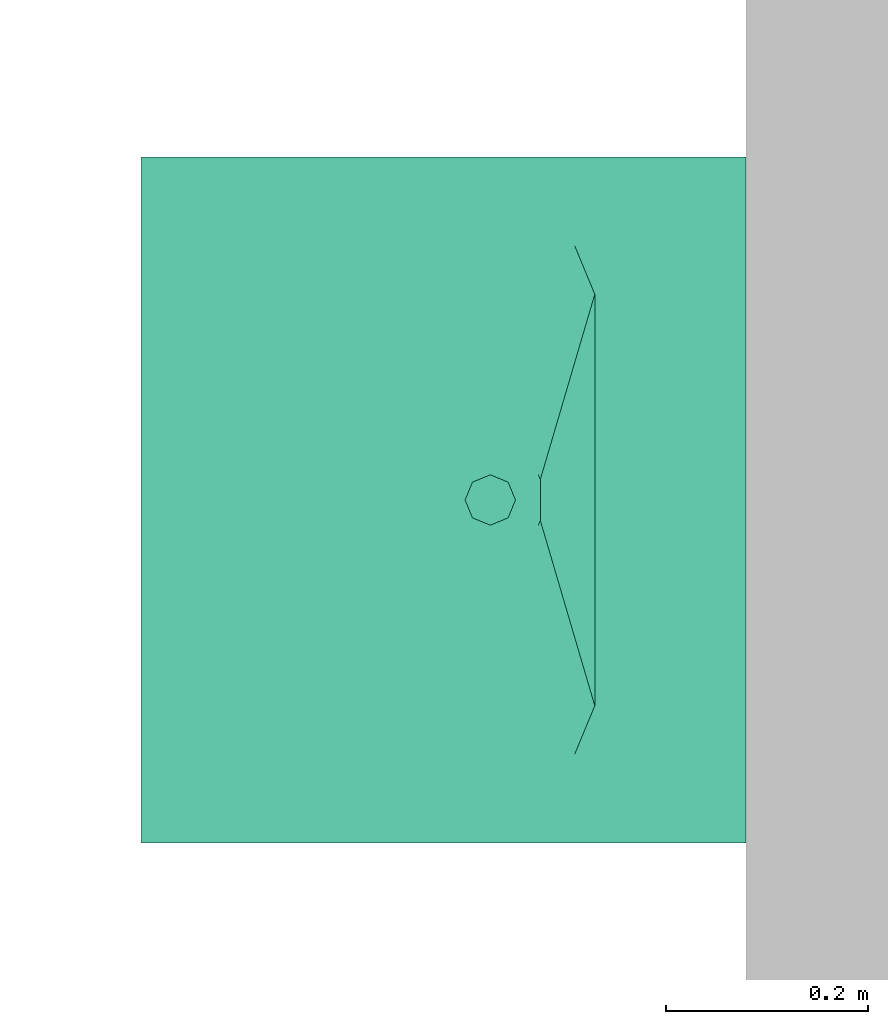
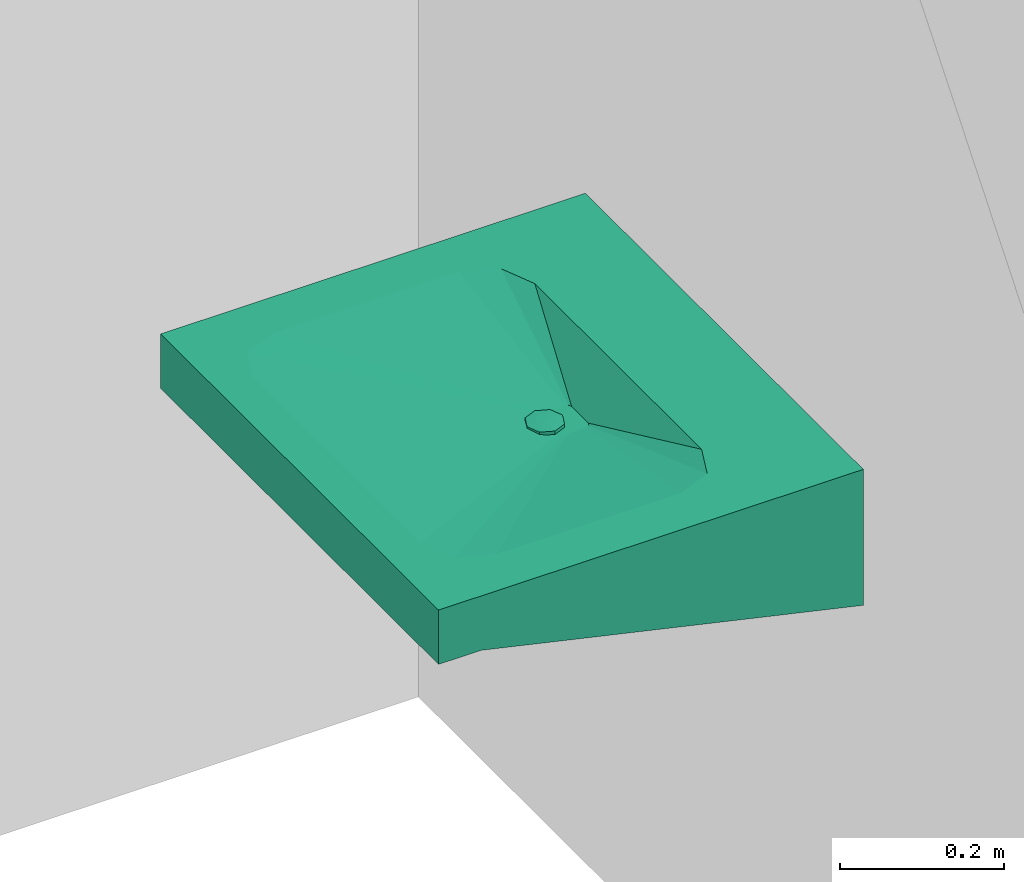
# One storey, part 42 of 48: 1 distribution flow element.
"""IFC2X3 building model written with IfcOpenShell, lengths in millimetres."""

from ifc_helpers import new_model, entity, si_unit, converted_unit, derived_unit, money_unit, direction, frame, origin_with_axes, place, context, subcontext, project, spatial, open_shell, faceted_brep, surface_model, source, transform, mapped, type_object, element, save


model = new_model("IFC2X3")

# Units and contexts
model_context = context("Model", 3, precision=0.01, world=origin_with_axes(), true_north=direction((0.0, 1.0)))
body_context = subcontext(model_context, "Body", "Model", "MODEL_VIEW")
ifc_project = project(units=[si_unit("LENGTHUNIT", "METRE", prefix="MILLI"), si_unit("AREAUNIT", "SQUARE_METRE"), si_unit("VOLUMEUNIT", "CUBIC_METRE"), converted_unit("PLANEANGLEUNIT", "DEGREE", entity("IfcPlaneAngleMeasure", 0.0174532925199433), si_unit("PLANEANGLEUNIT", "RADIAN"), dimensions=[0, 0, 0, 0, 0, 0, 0]), money_unit("USD"), converted_unit("TIMEUNIT", "Year", entity("IfcTimeMeasure", 31557600.0), si_unit("TIMEUNIT", "SECOND"), dimensions=[0, 0, 1, 0, 0, 0, 0]), si_unit("MASSUNIT", "GRAM", prefix="KILO"), si_unit("THERMODYNAMICTEMPERATUREUNIT", "DEGREE_CELSIUS"), si_unit("LUMINOUSINTENSITYUNIT", "LUMEN"), si_unit("ENERGYUNIT", "JOULE", prefix="MEGA"), derived_unit("THERMALCONDUCTANCEUNIT", [(si_unit("POWERUNIT", "WATT"), 1), (si_unit("LENGTHUNIT", "METRE"), -1), (si_unit("THERMODYNAMICTEMPERATUREUNIT", "KELVIN"), -1)]), derived_unit("SPECIFICHEATCAPACITYUNIT", [(si_unit("ENERGYUNIT", "JOULE"), 1), (si_unit("MASSUNIT", "GRAM", prefix="KILO"), -1), (si_unit("THERMODYNAMICTEMPERATUREUNIT", "KELVIN"), -1)]), derived_unit("MASSDENSITYUNIT", [(si_unit("MASSUNIT", "GRAM", prefix="KILO"), 1), (si_unit("VOLUMEUNIT", "CUBIC_METRE"), -1)])], contexts=[model_context])

# Site, building, storey
site_placement = place(None, origin_with_axes())
site = spatial("IfcSite", under=ifc_project, at=site_placement, Name="Site", CompositionType="ELEMENT")
building_placement = place(site_placement, origin_with_axes())
building = spatial("IfcBuilding", under=site, at=building_placement, Name="Building", CompositionType="ELEMENT")
storey_placement = place(building_placement, frame((0.0, 0.0, 3300.0), z_axis=(0.0, 0.0, 1.0), x_axis=(1.0, 0.0, 0.0)))
storey = spatial("IfcBuildingStorey", under=building, at=storey_placement, Name="1 ETG", CompositionType="ELEMENT", Elevation=3300.0)

# Distribution flow element
valve_type = type_object("IfcValveType", Name="Servant", PredefinedType="USERDEFINED")
shared_shape = source(origin_with_axes(), body_context, "Body", "SurfaceModel", [
    surface_model("IfcShellBasedSurfaceModel", [(340.0, 0.0, 818.8000000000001), (340.0, 0.0, 900.0000000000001), (340.0, -600.0, 900.0000000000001), (340.0, -600.0, 818.8000000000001), (272.0, 0.0, 818.8000000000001), (272.0, 0.0, 900.0000000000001), (-272.0, 0.0, 900.0000000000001), (-340.0, 0.0, 900.0000000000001), (-340.0, -600.0, 900.0000000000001), (0.0, -150.0, 900.0000000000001), (204.0, -150.0, 900.0000000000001), (252.0832611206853, -169.9167388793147, 900.0000000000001), (272.0, -218.0, 900.0000000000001), (272.0, -480.0, 900.0000000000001), (252.0832611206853, -528.0832611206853, 900.0000000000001), (204.0, -548.0, 900.0000000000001), (-204.0, -548.0, 900.0000000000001), (-252.0832611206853, -528.0832611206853, 900.0000000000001), (-272.0, -480.0, 900.0000000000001), (-272.0, -218.0, 900.0000000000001), (-252.0832611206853, -169.9167388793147, 900.0000000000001), (-204.0, -150.0, 900.0000000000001), (-340.0, -600.0, 818.8000000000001), (-340.0, 0.0, 818.8000000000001), (-272.0, 0.0, 818.8000000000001), (0.0, -150.0, 818.8000000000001), (-204.0, -150.0, 818.8000000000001), (-252.0832611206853, -169.9167388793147, 818.8000000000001), (-272.0, -218.0, 818.8000000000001), (-272.0, -480.0, 818.8000000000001), (-252.0832611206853, -528.0832611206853, 818.8000000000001), (-204.0, -548.0, 818.8000000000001), (204.0, -548.0, 818.8000000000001), (252.0832611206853, -528.0832611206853, 818.8000000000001), (272.0, -480.0, 818.8000000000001), (272.0, -218.0, 818.8000000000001), (252.0832611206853, -169.9167388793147, 818.8000000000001), (204.0, -150.0, 818.8000000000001)], [open_shell([[[0, 1, 2, 3]], [[4, 5, 1, 0]], [[1, 5, 6, 7, 8, 2], [9, 10, 11, 12, 13, 14, 15, 16, 17, 18, 19, 20, 21]], [[3, 2, 8, 22]], [[0, 3, 22, 23, 24, 4], [25, 26, 27, 28, 29, 30, 31, 32, 33, 34, 35, 36, 37]], [[24, 6, 5, 4]], [[23, 7, 6, 24]], [[22, 8, 7, 23]]])]),
    surface_model("IfcShellBasedSurfaceModel", [(-340.0, 0.0, 818.8000000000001), (-272.0, 0.0, 818.8000000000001), (-272.0, 0.0, 697.0000000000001), (-340.0, 0.0, 697.0000000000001), (-272.0, -540.0, 818.8000000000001), (-340.0, -540.0, 818.8000000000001)], [open_shell([[[0, 1, 2, 3]], [[1, 4, 2]], [[3, 2, 4, 5]], [[0, 3, 5]]])]),
    surface_model("IfcShellBasedSurfaceModel", [(272.0000000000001, 0.0, 818.8000000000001), (340.0000000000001, 0.0, 818.8000000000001), (340.0000000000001, 0.0, 697.0000000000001), (272.0000000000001, 0.0, 697.0000000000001), (340.0000000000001, -540.0, 818.8000000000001), (272.0000000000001, -540.0, 818.8000000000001)], [open_shell([[[0, 1, 2, 3]], [[1, 4, 2]], [[3, 2, 4, 5]], [[0, 3, 5]]])]),
    surface_model("IfcShellBasedSurfaceModel", [(-204.0, -150.0, 900.0000000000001), (-20.40000000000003, -204.0, 846.7125000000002), (-25.20832611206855, -205.9916738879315, 846.7125000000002), (204.0, -150.0, 900.0000000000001), (20.39999999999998, -204.0, 846.7125000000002), (25.2083261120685, -205.9916738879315, 846.7125000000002), (27.19999999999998, -210.8, 846.7125000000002), (27.19999999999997, -237.0, 846.7125000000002), (25.20832611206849, -241.8083261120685, 846.7125000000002), (20.39999999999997, -243.8, 846.7125000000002), (-20.40000000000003, -243.8, 846.7125000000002), (-25.20832611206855, -241.8083261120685, 846.7125000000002), (-27.20000000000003, -237.0, 846.7125000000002), (-27.20000000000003, -210.8, 846.7125000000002), (-252.0832611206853, -169.9167388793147, 900.0000000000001), (252.0832611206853, -169.9167388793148, 900.0000000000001), (272.0, -218.0, 900.0000000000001), (271.9999999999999, -480.0000000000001, 900.0000000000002), (252.0832611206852, -528.0832611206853, 900.0000000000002), (204.0, -548.0, 900.0000000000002), (-204.0000000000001, -548.0, 900.0000000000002), (-252.0832611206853, -528.0832611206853, 900.0000000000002), (-272.0000000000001, -479.9999999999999, 900.0000000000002), (-272.0, -218.0, 900.0000000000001)], [open_shell([[[0, 1, 2]], [[1, 0, 3]], [[1, 4, 5, 6, 7, 8, 9, 10, 11, 12, 13, 2]], [[2, 14, 0]], [[3, 4, 1]], [[15, 5, 4]], [[16, 6, 5]], [[17, 7, 6]], [[18, 8, 7]], [[19, 9, 8]], [[20, 10, 9]], [[21, 11, 10]], [[22, 12, 11]], [[23, 13, 12]], [[14, 2, 13]], [[4, 3, 15]], [[5, 15, 16]], [[6, 16, 17]], [[7, 17, 18]], [[8, 18, 19]], [[9, 19, 20]], [[10, 20, 21]], [[11, 21, 22]], [[12, 22, 23]], [[13, 23, 14]]])]),
    surface_model("IfcShellBasedSurfaceModel", [(-204.0, -150.0, 818.8000000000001), (-20.40000000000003, -204.0, 765.5125000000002), (-25.20832611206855, -205.9916738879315, 765.5125000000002), (204.0, -150.0, 818.8000000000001), (20.39999999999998, -204.0, 765.5125000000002), (25.2083261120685, -205.9916738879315, 765.5125000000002), (27.19999999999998, -210.8, 765.5125000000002), (27.19999999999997, -237.0, 765.5125000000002), (25.20832611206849, -241.8083261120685, 765.5125000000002), (20.39999999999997, -243.8, 765.5125000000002), (-20.40000000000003, -243.8, 765.5125000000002), (-25.20832611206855, -241.8083261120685, 765.5125000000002), (-27.20000000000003, -237.0, 765.5125000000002), (-27.20000000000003, -210.8, 765.5125000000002), (-252.0832611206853, -169.9167388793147, 818.8000000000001), (252.0832611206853, -169.9167388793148, 818.8000000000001), (272.0, -218.0, 818.8000000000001), (271.9999999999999, -480.0000000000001, 818.8000000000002), (252.0832611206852, -528.0832611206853, 818.8000000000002), (204.0, -548.0, 818.8000000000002), (-204.0000000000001, -548.0, 818.8000000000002), (-252.0832611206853, -528.0832611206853, 818.8000000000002), (-272.0000000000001, -479.9999999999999, 818.8000000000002), (-272.0, -218.0, 818.8000000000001)], [open_shell([[[0, 1, 2]], [[1, 0, 3]], [[1, 4, 5, 6, 7, 8, 9, 10, 11, 12, 13, 2]], [[2, 14, 0]], [[3, 4, 1]], [[15, 5, 4]], [[16, 6, 5]], [[17, 7, 6]], [[18, 8, 7]], [[19, 9, 8]], [[20, 10, 9]], [[21, 11, 10]], [[22, 12, 11]], [[23, 13, 12]], [[14, 2, 13]], [[4, 3, 15]], [[5, 15, 16]], [[6, 16, 17]], [[7, 17, 18]], [[8, 18, 19]], [[9, 19, 20]], [[10, 20, 21]], [[11, 21, 22]], [[12, 22, 23]], [[13, 23, 14]]])]),
    faceted_brep([(-17.67766952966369, -271.2976695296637, 850.0000000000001), (-25.0, -253.62, 850.0000000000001), (-17.67766952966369, -235.9423304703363, 850.0000000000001), (0.0, -228.62, 850.0000000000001), (17.67766952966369, -235.9423304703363, 850.0000000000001), (25.00000000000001, -253.62, 850.0000000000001), (17.67766952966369, -271.2976695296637, 850.0000000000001), (0.0, -278.6200000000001, 850.0000000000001), (-17.67766952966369, -271.2976695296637, 855.0000000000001), (-25.0, -253.62, 855.0000000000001), (-17.67766952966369, -235.9423304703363, 855.0000000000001), (0.0, -228.62, 855.0000000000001), (17.67766952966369, -235.9423304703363, 855.0000000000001), (25.00000000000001, -253.62, 855.0000000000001), (17.67766952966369, -271.2976695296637, 855.0000000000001), (0.0, -278.6200000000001, 855.0000000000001)], [[[0, 1, 2, 3, 4, 5, 6, 7]], [[0, 8, 9, 1]], [[1, 9, 10, 2]], [[2, 10, 11, 3]], [[3, 11, 12, 4]], [[4, 12, 13, 5]], [[5, 13, 14, 6]], [[6, 14, 15, 7]], [[7, 15, 8, 0]], [[8, 15, 14, 13, 12, 11, 10, 9]]]),
    surface_model("IfcShellBasedSurfaceModel", [(0.0, -253.62, 857.0000000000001), (8.925035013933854, -244.6949649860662, 856.4975737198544), (0.0, -240.99809443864, 856.4975737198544), (12.62190556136, -253.62, 856.4975737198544), (17.67766952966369, -235.9423304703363, 855.0000000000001), (0.0, -228.62, 855.0000000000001), (-8.925035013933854, -244.6949649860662, 856.4975737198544), (8.925035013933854, -262.5450350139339, 856.4975737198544), (25.00000000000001, -253.62, 855.0000000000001), (-17.67766952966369, -235.9423304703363, 855.0000000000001), (-12.62190556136, -253.62, 856.4975737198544), (0.0, -266.24190556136, 856.4975737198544), (17.67766952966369, -271.2976695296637, 855.0000000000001), (-25.00000000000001, -253.62, 855.0000000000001), (-8.925035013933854, -262.5450350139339, 856.4975737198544), (0.0, -278.6200000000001, 855.0000000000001), (-17.67766952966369, -271.2976695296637, 855.0000000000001)], [open_shell([[[0, 1, 2]], [[0, 3, 1]], [[1, 4, 5, 2]], [[0, 2, 6]], [[0, 7, 3]], [[3, 8, 4, 1]], [[2, 5, 9, 6]], [[0, 6, 10]], [[0, 11, 7]], [[7, 12, 8, 3]], [[6, 9, 13, 10]], [[0, 10, 14]], [[0, 14, 11]], [[11, 15, 12, 7]], [[10, 13, 16, 14]], [[14, 16, 15, 11]]])]),
])
distribution_flow_element_placement = place(storey_placement, frame((42350.01666818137, 23571.21125685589, 100.0000000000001), z_axis=(0.0, 0.0, 1.0), x_axis=(0.0, -1.0, 0.0)))
element("IfcDistributionFlowElement", 1, at=distribution_flow_element_placement, inside=storey, type_object=valve_type, Name="FU - 001", ObjectType="Distribution Flow Element", context=body_context, shape_type="MappedRepresentation", body=[
    mapped(shared_shape, transform((0.0, 0.0, 0.0))),
])

save(model, "model.ifc")
